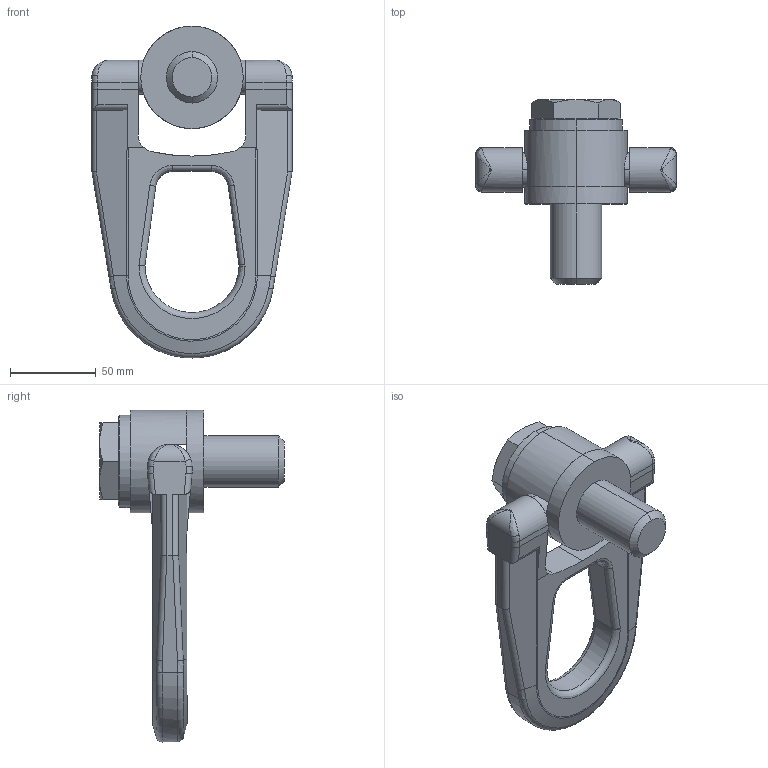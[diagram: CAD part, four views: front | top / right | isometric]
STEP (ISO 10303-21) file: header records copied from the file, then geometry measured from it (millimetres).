
FILE_DESCRIPTION (( 'STEP AP203' ), '1' );
FILE_NAME ('63200.W0030.step', '2013-12-13T15:24:12', ( 'User' ), ( '' ), 'SwSTEP 2.0', 'SolidWorks 2009', '' );
FILE_SCHEMA (( 'CONFIG_CONTROL_DESIGN' ));
Length unit declared in the file: millimetre
Products named in the file (3): Part1_63200.W0030; Part4; 63200.W0030
Assembly tree (2 placements, depth 2):
  63200.W0030
    Part1_63200.W0030
    Part4
Bounding box: 117 x 108 x 194 mm (x, y, z)
Volume: 370674.1 mm3; surface area: 60827.8 mm2
Topology: 2 solids, 2 shells, 141 faces, 353 edges, 217 vertices
Faces by surface type: cylinder 48, plane 47, bspline 26, cone 13, torus 7
Entity records: 7105 total; most frequent: CARTESIAN_POINT 3710, ORIENTED_EDGE 706, DIRECTION 583, EDGE_CURVE 353, AXIS2_PLACEMENT_3D 219, VERTEX_POINT 217, EDGE_LOOP 146, VECTOR 145
